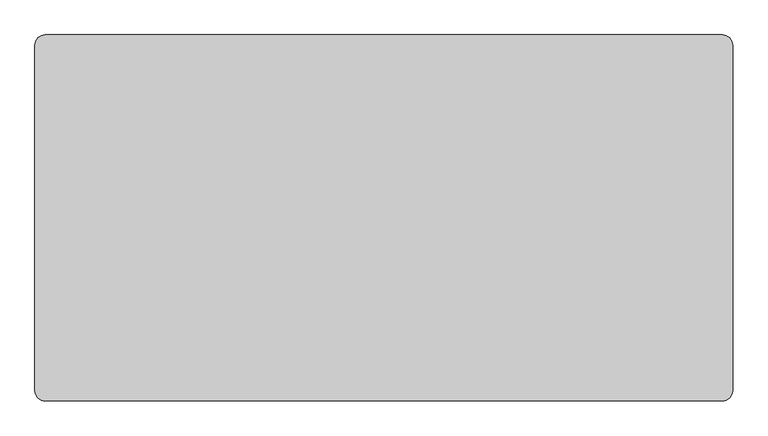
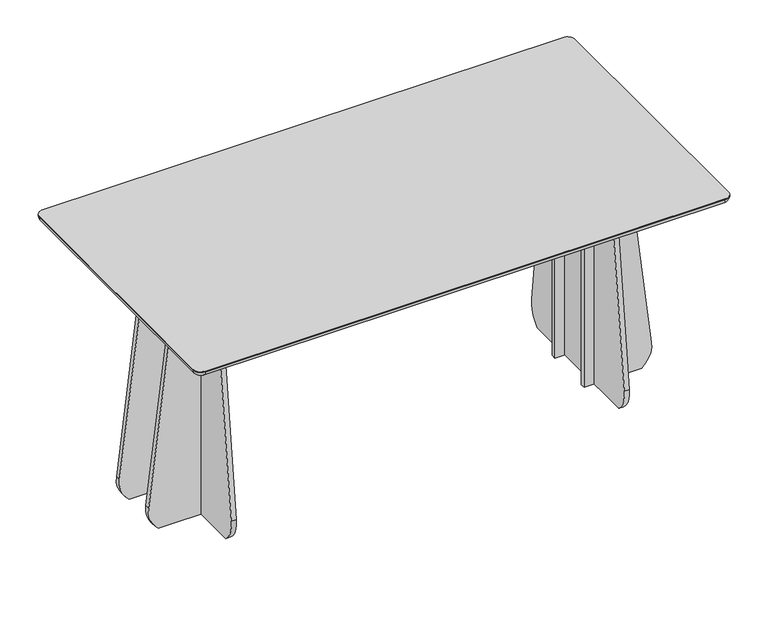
"""IFC4 building model written with IfcOpenShell, lengths in millimetres: furniture geometry, Lundbergs Möbler - Funghi Largo - Table - Rectangular - 200x105 - H90 : Lundbergs Möbler - Funghi Largo - Table - Rectangular - 200x105 - H90."""

from ifc_helpers import new_model, si_unit, point, frame, frame_2d, origin, place, context, project, spatial, polyline, circle_curve, ellipse_curve, trimmed, segment, composite_curve, outline, extrude, source, transform, mapped, element, save
from ifc_brep_helpers import plane_surface, cylinder_surface, revolved_surface, advanced_brep


def furniture_44cc76ec(model_context):
    return source(origin(), model_context, "Body", "SolidModel", [
        advanced_brep(
        [(-980.0, 495.0, 876.0), (-1000.0, 495.0, 896.0), (-970.0, 525.0, 896.0), (-970.0, 505.0, 876.0), (-980.0, -495.0, 876.0), (-1000.0, -495.0, 896.0), (-970.0, -505.0, 876.0), (-970.0, -525.0, 896.0), (970.0, -505.0, 876.0), (970.0, -525.0, 896.0), (980.0, -495.0, 876.0), (1000.0, -495.0, 896.0), (980.0, 495.0, 876.0), (1000.0, 495.0, 896.0), (970.0, 505.0, 876.0), (970.0, 525.0, 896.0), (970.0, 525.0, 900.0), (-970.0, 525.0, 900.0), (-1000.0, 495.0, 900.0), (-1000.0, -495.0, 900.0), (-970.0, -525.0, 900.0), (970.0, -525.0, 900.0), (1000.0, -495.0, 900.0), (1000.0, 495.0, 900.0)],
        [
            (0, 1, circle_curve(frame((-980.0, 495.0, 896.0), z_axis=(0.0, 1.0, 0.0), x_axis=(1.0, 0.0, 0.0)), 20.0)),
            (1, 2, circle_curve(frame((-970.0, 495.0, 896.0), z_axis=(0.0, 0.0, -1.0), x_axis=(0.0, 1.0, 0.0)), 30.0)),
            (2, 3, circle_curve(frame((-970.0, 505.0, 896.0), z_axis=(-1.0, 0.0, 0.0), x_axis=(0.0, -1.0, 0.0)), 20.0)),
            (3, 0, circle_curve(frame((-970.0, 495.0, 876.0), z_axis=(0.0, 0.0, 1.0), x_axis=(0.0, 1.0, 0.0)), 10.0)),
            (0, 4),
            (4, 5, circle_curve(frame((-980.0, -495.0, 896.0), z_axis=(0.0, 1.0, 0.0), x_axis=(1.0, 0.0, 0.0)), 20.0)),
            (5, 1),
            (4, 6, circle_curve(frame((-970.0, -495.0, 876.0), z_axis=(0.0, 0.0, 1.0), x_axis=(-1.0, 0.0, 0.0)), 10.0)),
            (6, 7, circle_curve(frame((-970.0, -505.0, 896.0), z_axis=(-1.0, 0.0, 0.0), x_axis=(0.0, 1.0, 0.0)), 20.0)),
            (7, 5, circle_curve(frame((-970.0, -495.0, 896.0), z_axis=(0.0, 0.0, -1.0), x_axis=(-1.0, 0.0, 0.0)), 30.0)),
            (6, 8),
            (8, 9, circle_curve(frame((970.0, -505.0, 896.0), z_axis=(-1.0, 0.0, 0.0), x_axis=(0.0, 1.0, 0.0)), 20.0)),
            (9, 7),
            (8, 10, circle_curve(frame((970.0, -495.0, 876.0), z_axis=(0.0, 0.0, 1.0), x_axis=(0.0, -1.0, 0.0)), 10.0)),
            (10, 11, circle_curve(frame((980.0, -495.0, 896.0), z_axis=(0.0, -1.0, 0.0), x_axis=(-1.0, 0.0, 0.0)), 20.0)),
            (11, 9, circle_curve(frame((970.0, -495.0, 896.0), z_axis=(0.0, 0.0, -1.0), x_axis=(0.0, -1.0, 0.0)), 30.0)),
            (10, 12),
            (12, 13, circle_curve(frame((980.0, 495.0, 896.0), z_axis=(0.0, -1.0, 0.0), x_axis=(-1.0, 0.0, 0.0)), 20.0)),
            (13, 11),
            (12, 14, circle_curve(frame((970.0, 495.0, 876.0), z_axis=(0.0, 0.0, 1.0), x_axis=(1.0, 0.0, 0.0)), 10.0)),
            (14, 15, circle_curve(frame((970.0, 505.0, 896.0), z_axis=(1.0, 0.0, 0.0), x_axis=(0.0, -1.0, 0.0)), 20.0)),
            (15, 13, circle_curve(frame((970.0, 495.0, 896.0), z_axis=(0.0, 0.0, -1.0), x_axis=(1.0, 0.0, 0.0)), 30.0)),
            (2, 15),
            (14, 3),
            (16, 17),
            (17, 18, circle_curve(frame((-970.0, 495.0, 900.0), z_axis=(0.0, 0.0, 1.0), x_axis=(0.0, 1.0, 0.0)), 30.0)),
            (18, 19),
            (19, 20, circle_curve(frame((-970.0, -495.0, 900.0), z_axis=(0.0, 0.0, 1.0), x_axis=(0.0, 1.0, 0.0)), 30.0)),
            (20, 21),
            (21, 22, circle_curve(frame((970.0, -495.0, 900.0), z_axis=(0.0, 0.0, 1.0), x_axis=(0.0, 1.0, 0.0)), 30.0)),
            (22, 23),
            (23, 16, circle_curve(frame((970.0, 495.0, 900.0), z_axis=(0.0, 0.0, 1.0), x_axis=(0.0, 1.0, 0.0)), 30.0)),
            (16, 15),
            (2, 17),
            (1, 18),
            (5, 19),
            (7, 20),
            (9, 21),
            (11, 22),
            (13, 23),
        ],
        [
            revolved_surface(trimmed(ellipse_curve(frame((-970.0, 505.0, 896.0), z_axis=(1.0, 0.0, 0.0), x_axis=(0.0, -1.0, 0.0)), 20.0, 20.0), [point((-970.0, 505.0, 876.0))], [point((-970.0, 525.0, 896.0))], True, "CARTESIAN"), (-970.0, 495.0, 170.0), (0.0, 0.0, 1.0)),
            cylinder_surface(frame((-980.0, 495.0, 896.0), z_axis=(0.0, -1.0, 0.0), x_axis=(1.0, 0.0, 0.0)), 20.0),
            revolved_surface(trimmed(ellipse_curve(frame((-980.0, -495.0, 896.0), z_axis=(0.0, 1.0, 0.0), x_axis=(1.0, 0.0, 0.0)), 20.0, 20.0), [point((-980.0, -495.0, 876.0))], [point((-1000.0, -495.0, 896.0))], True, "CARTESIAN"), (-970.0, -495.0, 170.0), (0.0, 0.0, 1.0)),
            cylinder_surface(frame((-970.0, -505.0, 896.0), z_axis=(1.0, 0.0, 0.0), x_axis=(0.0, 1.0, 0.0)), 20.0),
            revolved_surface(trimmed(ellipse_curve(frame((970.0, -505.0, 896.0), z_axis=(-1.0, 0.0, 0.0), x_axis=(0.0, 1.0, 0.0)), 20.0, 20.0), [point((970.0, -505.0, 876.0))], [point((970.0, -525.0, 896.0))], True, "CARTESIAN"), (970.0, -495.0, 170.0), (0.0, 0.0, 1.0)),
            cylinder_surface(frame((980.0, -495.0, 896.0), z_axis=(0.0, 1.0, 0.0), x_axis=(-1.0, 0.0, 0.0)), 20.0),
            revolved_surface(trimmed(ellipse_curve(frame((980.0, 495.0, 896.0), z_axis=(0.0, -1.0, 0.0), x_axis=(-1.0, 0.0, 0.0)), 20.0, 20.0), [point((980.0, 495.0, 876.0))], [point((1000.0, 495.0, 896.0))], True, "CARTESIAN"), (970.0, 495.0, 170.0), (0.0, 0.0, 1.0)),
            cylinder_surface(frame((970.0, 505.0, 896.0), z_axis=(-1.0, 0.0, 0.0), x_axis=(0.0, -1.0, 0.0)), 20.0),
            plane_surface(frame((-970.0, 525.0, 900.0), z_axis=(0.0, 0.0, 1.0), x_axis=(-1.0, 0.0, 0.0))),
            plane_surface(frame((-970.0, 525.0, 876.0), z_axis=(0.0, 0.0, -1.0), x_axis=(1.0, 0.0, 0.0))),
            plane_surface(frame((970.0, 525.0, 900.0), z_axis=(0.0, 1.0, 0.0), x_axis=(0.0, 0.0, -1.0))),
            cylinder_surface(frame((-970.0, 495.0, 876.0), z_axis=(0.0, 0.0, 1.0), x_axis=(0.0, 1.0, 0.0)), 30.0),
            plane_surface(frame((-1000.0, 495.0, 900.0), z_axis=(-1.0, 0.0, 0.0), x_axis=(0.0, 0.0, -1.0))),
            cylinder_surface(frame((-970.0, -495.0, 876.0), z_axis=(0.0, 0.0, 1.0), x_axis=(0.0, 1.0, 0.0)), 30.0),
            plane_surface(frame((-970.0, -525.0, 900.0), z_axis=(0.0, -1.0, 0.0), x_axis=(0.0, 0.0, -1.0))),
            cylinder_surface(frame((970.0, -495.0, 876.0), z_axis=(0.0, 0.0, 1.0), x_axis=(0.0, 1.0, 0.0)), 30.0),
            plane_surface(frame((1000.0, -495.0, 900.0), z_axis=(1.0, 0.0, 0.0), x_axis=(0.0, 0.0, -1.0))),
            cylinder_surface(frame((970.0, 495.0, 876.0), z_axis=(0.0, 0.0, 1.0), x_axis=(0.0, 1.0, 0.0)), 30.0),
        ],
        [
            (0, [[1, 2, 3, 4]]),
            (1, [[-1, 5, 6, 7]]),
            (2, [[-6, 8, 9, 10]]),
            (3, [[-9, 11, 12, 13]]),
            (4, [[-12, 14, 15, 16]]),
            (5, [[-15, 17, 18, 19]]),
            (6, [[-18, 20, 21, 22]]),
            (7, [[-3, 23, -21, 24]]),
            (8, [[25, 26, 27, 28, 29, 30, 31, 32]]),
            (9, [[-4, -24, -20, -17, -14, -11, -8, -5]]),
            (10, [[-25, 33, -23, 34]]),
            (11, [[-26, -34, -2, 35]]),
            (12, [[-27, -35, -7, 36]]),
            (13, [[-28, -36, -10, 37]]),
            (14, [[-29, -37, -13, 38]]),
            (15, [[-30, -38, -16, 39]]),
            (16, [[-31, -39, -19, 40]]),
            (17, [[-32, -40, -22, -33]]),
        ],
    ),
        extrude(outline(composite_curve([segment(polyline([(781.25, 180.0), (817.25, 180.0)]), True, "CONTINUOUS"), segment(trimmed(circle_curve(frame_2d((817.25, 178.0)), 2.0), [point((817.25, 180.0))], [point((819.25, 178.0))], False, "CARTESIAN"), True, "CONTINUOUS"), segment(polyline([(819.25, 178.0), (819.25, -178.0)]), True, "CONTINUOUS"), segment(trimmed(circle_curve(frame_2d((817.25, -178.0)), 2.0), [point((819.25, -178.0))], [point((817.25, -180.0))], False, "CARTESIAN"), True, "CONTINUOUS"), segment(polyline([(817.25, -180.0), (781.25, -180.0)]), True, "CONTINUOUS"), segment(trimmed(circle_curve(frame_2d((781.25, -178.0)), 2.0), [point((781.25, -180.0))], [point((779.25, -178.0))], False, "CARTESIAN"), True, "CONTINUOUS"), segment(polyline([(779.25, -178.0), (779.25, 178.0)]), True, "CONTINUOUS"), segment(trimmed(circle_curve(frame_2d((781.25, 178.0)), 2.0), [point((779.25, 178.0))], [point((781.25, 180.0))], False, "CARTESIAN"), True, "CONTINUOUS")], self_intersect=False)), frame((0.0, 0.0, 856.0), z_axis=(0.0, 0.0, 1.0), x_axis=(1.0, 0.0, 0.0)), (0.0, 0.0, 1.0), 20.0),
        extrude(outline(composite_curve([segment(polyline([(661.25, 180.0), (751.25, 180.0)]), True, "CONTINUOUS"), segment(trimmed(circle_curve(frame_2d((751.25, 176.5)), 3.5), [point((751.25, 180.0))], [point((754.75, 176.5))], False, "CARTESIAN"), True, "CONTINUOUS"), segment(polyline([(754.75, 176.5), (754.75, 143.5)]), True, "CONTINUOUS"), segment(trimmed(circle_curve(frame_2d((751.25, 143.5)), 3.5), [point((754.75, 143.5))], [point((751.25, 140.0))], False, "CARTESIAN"), True, "CONTINUOUS"), segment(polyline([(751.25, 140.0), (661.25, 140.0)]), True, "CONTINUOUS"), segment(trimmed(circle_curve(frame_2d((661.25, 143.5)), 3.5), [point((661.25, 140.0))], [point((657.75, 143.5))], False, "CARTESIAN"), True, "CONTINUOUS"), segment(polyline([(657.75, 143.5), (657.75, 176.5)]), True, "CONTINUOUS"), segment(trimmed(circle_curve(frame_2d((661.25, 176.5)), 3.5), [point((657.75, 176.5))], [point((661.25, 180.0))], False, "CARTESIAN"), True, "CONTINUOUS")], self_intersect=False)), frame((0.0, 0.0, 856.0), z_axis=(0.0, 0.0, 1.0), x_axis=(1.0, 0.0, 0.0)), (0.0, 0.0, 1.0), 20.0),
        extrude(outline(composite_curve([segment(polyline([(661.25, -140.0), (751.25, -140.0)]), True, "CONTINUOUS"), segment(trimmed(circle_curve(frame_2d((751.25, -143.5)), 3.5), [point((751.25, -140.0))], [point((754.75, -143.5))], False, "CARTESIAN"), True, "CONTINUOUS"), segment(polyline([(754.75, -143.5), (754.75, -176.5)]), True, "CONTINUOUS"), segment(trimmed(circle_curve(frame_2d((751.25, -176.5)), 3.5), [point((754.75, -176.5))], [point((751.25, -180.0))], False, "CARTESIAN"), True, "CONTINUOUS"), segment(polyline([(751.25, -180.0), (661.25, -180.0)]), True, "CONTINUOUS"), segment(trimmed(circle_curve(frame_2d((661.25, -176.5)), 3.5), [point((661.25, -180.0))], [point((657.75, -176.5))], False, "CARTESIAN"), True, "CONTINUOUS"), segment(polyline([(657.75, -176.5), (657.75, -143.5)]), True, "CONTINUOUS"), segment(trimmed(circle_curve(frame_2d((661.25, -143.5)), 3.5), [point((657.75, -143.5))], [point((661.25, -140.0))], False, "CARTESIAN"), True, "CONTINUOUS")], self_intersect=False)), frame((0.0, 0.0, 856.0), z_axis=(0.0, 0.0, 1.0), x_axis=(1.0, 0.0, 0.0)), (0.0, 0.0, 1.0), 20.0),
        extrude(outline(composite_curve([segment(trimmed(circle_curve(frame_2d((200.0, 78.0350603)), 100.0), [point((299.2807726, 90.0070355))], [point((262.5342255, 0.0))], False, "CARTESIAN"), True, "CONTINUOUS"), segment(polyline([(262.5342255, 0.0), (-262.5342255, 0.0)]), True, "CONTINUOUS"), segment(trimmed(circle_curve(frame_2d((-200.0, 78.0350603)), 100.0), [point((-262.5342255, 0.0))], [point((-299.2807726, 90.0070355))], False, "CARTESIAN"), True, "CONTINUOUS"), segment(polyline([(-299.2807726, 90.0070355), (-204.500202, 876.0), (204.500202, 876.0), (299.2807726, 90.0070355)]), True, "CONTINUOUS")], self_intersect=False)), frame((724.25, 0.0, 0.0), z_axis=(1.0, 0.0, 0.0), x_axis=(0.0, 1.0, 0.0)), (0.0, 0.0, 1.0), 18.5),
        extrude(outline(composite_curve([segment(polyline([(90.0070355, 938.5307726), (876.0, 843.750202), (876.0, 687.25), (0.0, 687.25), (0.0, 901.7842255)]), True, "CONTINUOUS"), segment(trimmed(circle_curve(frame_2d((78.0350603, 839.25)), 100.0), [point((0.0, 901.7842255))], [point((90.0070355, 938.5307726))], False, "CARTESIAN"), True, "CONTINUOUS")], self_intersect=False)), frame((0.0, 85.5, 0.0), z_axis=(0.0, 1.0, 0.0), x_axis=(0.0, 0.0, 1.0)), (0.0, 0.0, 1.0), 18.0),
        extrude(outline(composite_curve([segment(polyline([(90.0070355, 938.5307726), (876.0, 843.750202), (876.0, 687.25), (0.0, 687.25), (0.0, 901.7842255)]), True, "CONTINUOUS"), segment(trimmed(circle_curve(frame_2d((78.0350603, 839.25)), 100.0), [point((0.0, 901.7842255))], [point((90.0070355, 938.5307726))], False, "CARTESIAN"), True, "CONTINUOUS")], self_intersect=False)), frame((0.0, -103.5, 0.0), z_axis=(0.0, 1.0, 0.0), x_axis=(0.0, 0.0, 1.0)), (0.0, 0.0, 1.0), 18.0),
        extrude(outline(composite_curve([segment(trimmed(circle_curve(frame_2d((-781.25, 178.0)), 2.0), [point((-781.25, 180.0))], [point((-779.25, 178.0))], False, "CARTESIAN"), True, "CONTINUOUS"), segment(polyline([(-779.25, 178.0), (-779.25, -178.0)]), True, "CONTINUOUS"), segment(trimmed(circle_curve(frame_2d((-781.25, -178.0)), 2.0), [point((-779.25, -178.0))], [point((-781.25, -180.0))], False, "CARTESIAN"), True, "CONTINUOUS"), segment(polyline([(-781.25, -180.0), (-817.25, -180.0)]), True, "CONTINUOUS"), segment(trimmed(circle_curve(frame_2d((-817.25, -178.0)), 2.0), [point((-817.25, -180.0))], [point((-819.25, -178.0))], False, "CARTESIAN"), True, "CONTINUOUS"), segment(polyline([(-819.25, -178.0), (-819.25, 178.0)]), True, "CONTINUOUS"), segment(trimmed(circle_curve(frame_2d((-817.25, 178.0)), 2.0), [point((-819.25, 178.0))], [point((-817.25, 180.0))], False, "CARTESIAN"), True, "CONTINUOUS"), segment(polyline([(-817.25, 180.0), (-781.25, 180.0)]), True, "CONTINUOUS")], self_intersect=False)), frame((0.0, 0.0, 856.0), z_axis=(0.0, 0.0, 1.0), x_axis=(1.0, 0.0, 0.0)), (0.0, 0.0, 1.0), 20.0),
        extrude(outline(composite_curve([segment(trimmed(circle_curve(frame_2d((-661.25, 176.5)), 3.5), [point((-661.25, 180.0))], [point((-657.75, 176.5))], False, "CARTESIAN"), True, "CONTINUOUS"), segment(polyline([(-657.75, 176.5), (-657.75, 143.5)]), True, "CONTINUOUS"), segment(trimmed(circle_curve(frame_2d((-661.25, 143.5)), 3.5), [point((-657.75, 143.5))], [point((-661.25, 140.0))], False, "CARTESIAN"), True, "CONTINUOUS"), segment(polyline([(-661.25, 140.0), (-751.25, 140.0)]), True, "CONTINUOUS"), segment(trimmed(circle_curve(frame_2d((-751.25, 143.5)), 3.5), [point((-751.25, 140.0))], [point((-754.75, 143.5))], False, "CARTESIAN"), True, "CONTINUOUS"), segment(polyline([(-754.75, 143.5), (-754.75, 176.5)]), True, "CONTINUOUS"), segment(trimmed(circle_curve(frame_2d((-751.25, 176.5)), 3.5), [point((-754.75, 176.5))], [point((-751.25, 180.0))], False, "CARTESIAN"), True, "CONTINUOUS"), segment(polyline([(-751.25, 180.0), (-661.25, 180.0)]), True, "CONTINUOUS")], self_intersect=False)), frame((0.0, 0.0, 856.0), z_axis=(0.0, 0.0, 1.0), x_axis=(1.0, 0.0, 0.0)), (0.0, 0.0, 1.0), 20.0),
        extrude(outline(composite_curve([segment(trimmed(circle_curve(frame_2d((-661.25, -143.5)), 3.5), [point((-661.25, -140.0))], [point((-657.75, -143.5))], False, "CARTESIAN"), True, "CONTINUOUS"), segment(polyline([(-657.75, -143.5), (-657.75, -176.5)]), True, "CONTINUOUS"), segment(trimmed(circle_curve(frame_2d((-661.25, -176.5)), 3.5), [point((-657.75, -176.5))], [point((-661.25, -180.0))], False, "CARTESIAN"), True, "CONTINUOUS"), segment(polyline([(-661.25, -180.0), (-751.25, -180.0)]), True, "CONTINUOUS"), segment(trimmed(circle_curve(frame_2d((-751.25, -176.5)), 3.5), [point((-751.25, -180.0))], [point((-754.75, -176.5))], False, "CARTESIAN"), True, "CONTINUOUS"), segment(polyline([(-754.75, -176.5), (-754.75, -143.5)]), True, "CONTINUOUS"), segment(trimmed(circle_curve(frame_2d((-751.25, -143.5)), 3.5), [point((-754.75, -143.5))], [point((-751.25, -140.0))], False, "CARTESIAN"), True, "CONTINUOUS"), segment(polyline([(-751.25, -140.0), (-661.25, -140.0)]), True, "CONTINUOUS")], self_intersect=False)), frame((0.0, 0.0, 856.0), z_axis=(0.0, 0.0, 1.0), x_axis=(1.0, 0.0, 0.0)), (0.0, 0.0, 1.0), 20.0),
        extrude(outline(composite_curve([segment(trimmed(circle_curve(frame_2d((200.0, 78.0350603)), 100.0), [point((299.2807726, 90.0070355))], [point((262.5342255, 0.0))], False, "CARTESIAN"), True, "CONTINUOUS"), segment(polyline([(262.5342255, 0.0), (-262.5342255, 0.0)]), True, "CONTINUOUS"), segment(trimmed(circle_curve(frame_2d((-200.0, 78.0350603)), 100.0), [point((-262.5342255, 0.0))], [point((-299.2807726, 90.0070355))], False, "CARTESIAN"), True, "CONTINUOUS"), segment(polyline([(-299.2807726, 90.0070355), (-204.500202, 876.0), (204.500202, 876.0), (299.2807726, 90.0070355)]), True, "CONTINUOUS")], self_intersect=False)), frame((-742.75, 0.0, 0.0), z_axis=(1.0, 0.0, 0.0), x_axis=(0.0, 1.0, 0.0)), (0.0, 0.0, 1.0), 18.5),
        extrude(outline(composite_curve([segment(trimmed(circle_curve(frame_2d((78.0350603, -839.25)), 100.0), [point((90.0070355, -938.5307726))], [point((0.0, -901.7842255))], False, "CARTESIAN"), True, "CONTINUOUS"), segment(polyline([(0.0, -901.7842255), (0.0, -687.25), (876.0, -687.25), (876.0, -843.750202), (90.0070355, -938.5307726)]), True, "CONTINUOUS")], self_intersect=False)), frame((0.0, 85.5, 0.0), z_axis=(0.0, 1.0, 0.0), x_axis=(0.0, 0.0, 1.0)), (0.0, 0.0, 1.0), 18.0),
        extrude(outline(composite_curve([segment(trimmed(circle_curve(frame_2d((78.0350603, -839.25)), 100.0), [point((90.0070355, -938.5307726))], [point((0.0, -901.7842255))], False, "CARTESIAN"), True, "CONTINUOUS"), segment(polyline([(0.0, -901.7842255), (0.0, -687.25), (876.0, -687.25), (876.0, -843.750202), (90.0070355, -938.5307726)]), True, "CONTINUOUS")], self_intersect=False)), frame((0.0, -103.5, 0.0), z_axis=(0.0, 1.0, 0.0), x_axis=(0.0, 0.0, 1.0)), (0.0, 0.0, 1.0), 18.0),
    ])


if __name__ == "__main__":
    model = new_model("IFC4")
    model_context = context("Model", 3, world=origin())
    ifc_project = project(units=[si_unit("LENGTHUNIT", "METRE", prefix="MILLI")], contexts=[model_context])
    site = spatial("IfcSite", under=ifc_project)
    building = spatial("IfcBuilding", under=site)
    placement = place(None, origin())
    furniture_shape = furniture_44cc76ec(model_context)
    element("IfcFurniture", 1, ObjectType="Lundbergs Möbler - Funghi Largo - Table - Rectangular - 200x105 - H90 : Lundbergs Möbler - Funghi Largo - Table - Rectangular - 200x105 - H90", at=placement, inside=building, context=model_context, shape_type="MappedRepresentation", body=[
        mapped(furniture_shape, transform((0.0, 0.0, 0.0), x_axis=(1.0, 0.0, 0.0), y_axis=(0.0, 1.0, 0.0), z_axis=(0.0, 0.0, 1.0))),
    ])
    save(model, "model.ifc")
